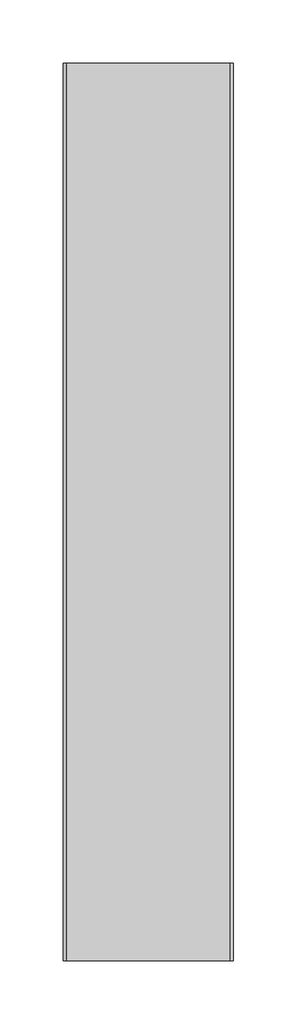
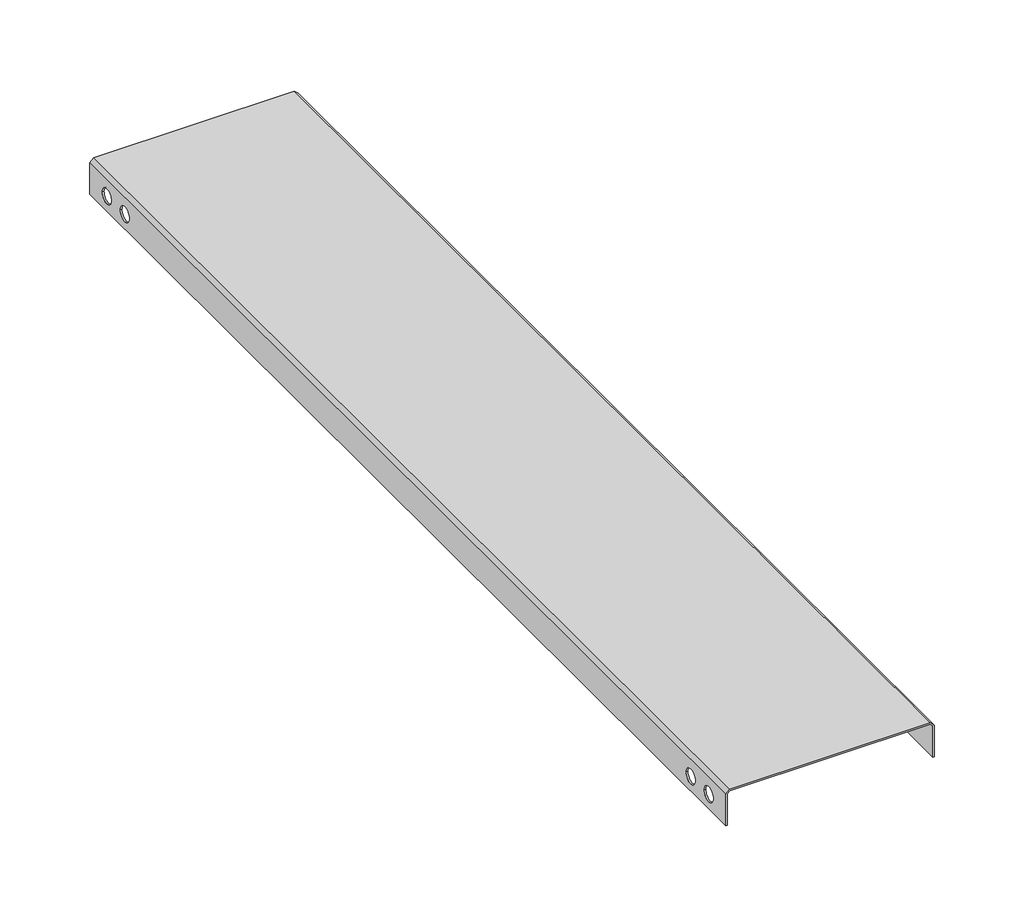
# Not in any storey: 1 proxy.
"""IFC4 building model written with IfcOpenShell, lengths in millimetres."""

from ifc_helpers import new_model, si_unit, origin, place, context, project, spatial, transform, mapped, element, save
from components import specialty_equipment_b656eaf4

model = new_model("IFC4")

# Units and contexts
model_context = context("Model", 3, world=origin())
ifc_project = project(units=[si_unit("LENGTHUNIT", "METRE", prefix="MILLI")], contexts=[model_context])

# Site, building
site = spatial("IfcSite", under=ifc_project)
building = spatial("IfcBuilding", under=site)

# Proxy
placement = place(None, origin())
specialty_equipment_shape = specialty_equipment_b656eaf4(model_context)
element("IfcBuildingElementProxy", 1, Name="11780900_EU_APDR008 : 59520008_EU_11780900_APDR008", ObjectType="11780900_EU_APDR008 : 59520008_EU_11780900_APDR008", at=placement, inside=building, context=model_context, shape_type="MappedRepresentation", body=[
    mapped(specialty_equipment_shape, transform((0.0, 0.0, 0.0), x_axis=(1.0, 0.0, 0.0), y_axis=(0.0, 1.0, 0.0), z_axis=(0.0, 0.0, 1.0))),
])

save(model, "model.ifc")
